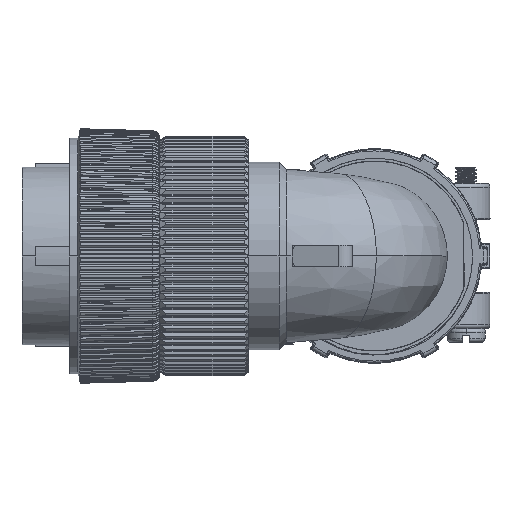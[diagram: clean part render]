
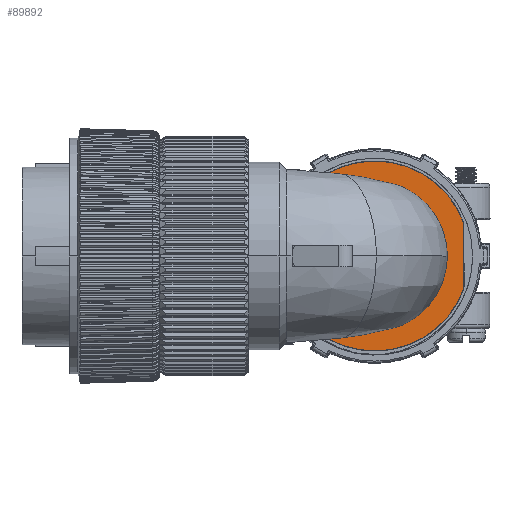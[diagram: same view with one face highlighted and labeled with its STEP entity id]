
A CAD part, left-side view. The second image highlights one B-rep face of the part: STEP entity #89892.
In plain terms, the highlighted planar face has unit normal (-1, 0, 0).
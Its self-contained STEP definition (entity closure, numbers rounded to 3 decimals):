
#27217=DIRECTION('',(0.,0.,-1.));
#27218=VECTOR('',#27217,9.016);
#27219=CARTESIAN_POINT('',(16.6,-47.95,
4.508));
#27220=LINE('',#27219,#27218);
#27221=CARTESIAN_POINT('',(16.6,-35.65,0.));
#27222=DIRECTION('',(1.,0.,0.));
#27223=DIRECTION('',(0.,-0.939,-0.344));
#27224=AXIS2_PLACEMENT_3D('',#27221,#27222,#27223);
#27226=DIRECTION('',(0.,0.,1.));
#27227=VECTOR('',#27226,9.016);
#27228=CARTESIAN_POINT('',(16.6,-23.35,
-4.508));
#27229=LINE('',#27228,#27227);
#27230=CARTESIAN_POINT('',(16.6,-35.65,0.));
#27231=DIRECTION('',(1.,0.,0.));
#27232=DIRECTION('',(0.,0.939,0.344));
#27233=AXIS2_PLACEMENT_3D('',#27230,#27231,#27232);
#27235=CARTESIAN_POINT('',(16.6,-45.65,
0.));
#27236=CARTESIAN_POINT('',(16.6,-45.65,
0.664));
#27237=CARTESIAN_POINT('',(16.6,-45.521,
1.963));
#27238=CARTESIAN_POINT('',(16.6,-44.947,
3.856));
#27239=CARTESIAN_POINT('',(16.6,-44.017,
5.593));
#27240=CARTESIAN_POINT('',(16.6,-42.767,
7.117));
#27241=CARTESIAN_POINT('',(16.6,-41.243,
8.367));
#27242=CARTESIAN_POINT('',(16.6,-39.506,
9.297));
#27243=CARTESIAN_POINT('',(16.6,-37.613,
9.87));
#27244=CARTESIAN_POINT('',(16.6,-36.314,
10.));
#27245=CARTESIAN_POINT('',(16.6,-35.65,
10.));
#27247=CARTESIAN_POINT('',(16.6,-35.65,
10.));
#27248=CARTESIAN_POINT('',(16.6,-34.986,
10.));
#27249=CARTESIAN_POINT('',(16.6,-33.687,
9.87));
#27250=CARTESIAN_POINT('',(16.6,-31.794,
9.297));
#27251=CARTESIAN_POINT('',(16.6,-30.057,
8.367));
#27252=CARTESIAN_POINT('',(16.6,-28.533,
7.117));
#27253=CARTESIAN_POINT('',(16.6,-27.283,
5.593));
#27254=CARTESIAN_POINT('',(16.6,-26.353,
3.856));
#27255=CARTESIAN_POINT('',(16.6,-25.78,
1.963));
#27256=CARTESIAN_POINT('',(16.6,-25.65,
0.664));
#27257=CARTESIAN_POINT('',(16.6,-25.65,
0.));
#27259=CARTESIAN_POINT('',(16.6,-25.65,
0.));
#27260=CARTESIAN_POINT('',(16.6,-25.65,
-0.664));
#27261=CARTESIAN_POINT('',(16.6,-25.78,
-1.963));
#27262=CARTESIAN_POINT('',(16.6,-26.353,
-3.856));
#27263=CARTESIAN_POINT('',(16.6,-27.283,
-5.593));
#27264=CARTESIAN_POINT('',(16.6,-28.533,
-7.117));
#27265=CARTESIAN_POINT('',(16.6,-30.057,
-8.367));
#27266=CARTESIAN_POINT('',(16.6,-31.794,
-9.297));
#27267=CARTESIAN_POINT('',(16.6,-33.687,
-9.87));
#27268=CARTESIAN_POINT('',(16.6,-34.986,
-10.));
#27269=CARTESIAN_POINT('',(16.6,-35.65,
-10.));
#27271=CARTESIAN_POINT('',(16.6,-35.65,
-10.));
#27272=CARTESIAN_POINT('',(16.6,-36.314,
-10.));
#27273=CARTESIAN_POINT('',(16.6,-37.613,
-9.87));
#27274=CARTESIAN_POINT('',(16.6,-39.506,
-9.297));
#27275=CARTESIAN_POINT('',(16.6,-41.243,
-8.367));
#27276=CARTESIAN_POINT('',(16.6,-42.767,
-7.117));
#27277=CARTESIAN_POINT('',(16.6,-44.017,
-5.593));
#27278=CARTESIAN_POINT('',(16.6,-44.947,
-3.856));
#27279=CARTESIAN_POINT('',(16.6,-45.521,
-1.963));
#27280=CARTESIAN_POINT('',(16.6,-45.65,
-0.664));
#27281=CARTESIAN_POINT('',(16.6,-45.65,
0.));
#50865=VERTEX_POINT('',#27271);
#50866=VERTEX_POINT('',#27281);
#50867=CARTESIAN_POINT('',(16.6,-47.95,
4.508));
#50868=CARTESIAN_POINT('',(16.6,-47.95,
-4.508));
#50869=VERTEX_POINT('',#50867);
#50870=VERTEX_POINT('',#50868);
#50871=CARTESIAN_POINT('',(16.6,-23.35,
-4.508));
#50872=VERTEX_POINT('',#50871);
#50873=CARTESIAN_POINT('',(16.6,-23.35,
4.508));
#50874=VERTEX_POINT('',#50873);
#50875=VERTEX_POINT('',#27245);
#50876=VERTEX_POINT('',#27257);
#89868=CARTESIAN_POINT('',(16.6,-35.65,0.));
#89869=DIRECTION('',(1.,0.,0.));
#89870=DIRECTION('',(0.,-1.,0.));
#89871=AXIS2_PLACEMENT_3D('',#89868,#89869,#89870);
#89872=PLANE('',#89871);
#89874=ORIENTED_EDGE('',*,*,#89873,.T.);
#89876=ORIENTED_EDGE('',*,*,#89875,.T.);
#89878=ORIENTED_EDGE('',*,*,#89877,.T.);
#89880=ORIENTED_EDGE('',*,*,#89879,.T.);
#89881=EDGE_LOOP('',(#89874,#89876,#89878,#89880));
#89882=FACE_OUTER_BOUND('',#89881,.F.);
#89884=ORIENTED_EDGE('',*,*,#89883,.T.);
#89886=ORIENTED_EDGE('',*,*,#89885,.T.);
#89888=ORIENTED_EDGE('',*,*,#89887,.T.);
#89889=ORIENTED_EDGE('',*,*,#89858,.T.);
#89890=EDGE_LOOP('',(#89884,#89886,#89888,#89889));
#89891=FACE_BOUND('',#89890,.F.);
#89892=ADVANCED_FACE('',(#89882,#89891),#89872,.F.);
#27225=CIRCLE('',#27224,13.1);
#27234=CIRCLE('',#27233,13.1);
#27246=B_SPLINE_CURVE_WITH_KNOTS('',3,(#27235,#27236,#27237,#27238,#27239,
#27240,#27241,#27242,#27243,#27244,#27245),.UNSPECIFIED.,.F.,.F.,(4,1,1,1,1,1,1,
1,4),(0.,0.125,0.25,0.375,0.5,0.625,0.75,0.875,1.),
.UNSPECIFIED.);
#27258=B_SPLINE_CURVE_WITH_KNOTS('',3,(#27247,#27248,#27249,#27250,#27251,
#27252,#27253,#27254,#27255,#27256,#27257),.UNSPECIFIED.,.F.,.F.,(4,1,1,1,1,1,1,
1,4),(0.,0.125,0.25,0.375,0.5,0.625,0.75,0.875,1.),
.UNSPECIFIED.);
#27270=B_SPLINE_CURVE_WITH_KNOTS('',3,(#27259,#27260,#27261,#27262,#27263,
#27264,#27265,#27266,#27267,#27268,#27269),.UNSPECIFIED.,.F.,.F.,(4,1,1,1,1,1,1,
1,4),(0.,0.125,0.25,0.375,0.5,0.625,0.75,0.875,1.),
.UNSPECIFIED.);
#27282=B_SPLINE_CURVE_WITH_KNOTS('',3,(#27271,#27272,#27273,#27274,#27275,
#27276,#27277,#27278,#27279,#27280,#27281),.UNSPECIFIED.,.F.,.F.,(4,1,1,1,1,1,1,
1,4),(0.,0.125,0.25,0.375,0.5,0.625,0.75,0.875,1.),
.UNSPECIFIED.);
#89858=EDGE_CURVE('',#50865,#50866,#27282,.T.);
#89873=EDGE_CURVE('',#50869,#50870,#27220,.T.);
#89875=EDGE_CURVE('',#50870,#50872,#27225,.T.);
#89877=EDGE_CURVE('',#50872,#50874,#27229,.T.);
#89879=EDGE_CURVE('',#50874,#50869,#27234,.T.);
#89883=EDGE_CURVE('',#50866,#50875,#27246,.T.);
#89885=EDGE_CURVE('',#50875,#50876,#27258,.T.);
#89887=EDGE_CURVE('',#50876,#50865,#27270,.T.);
